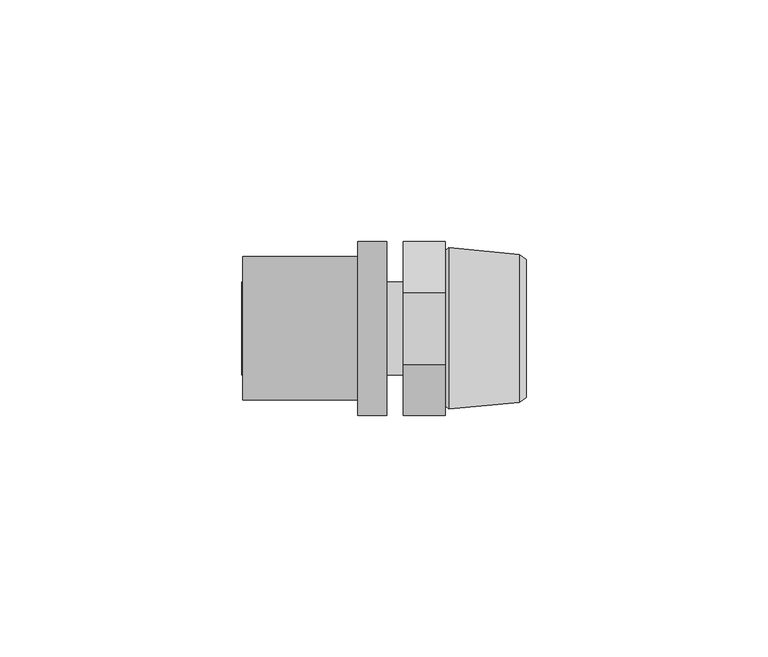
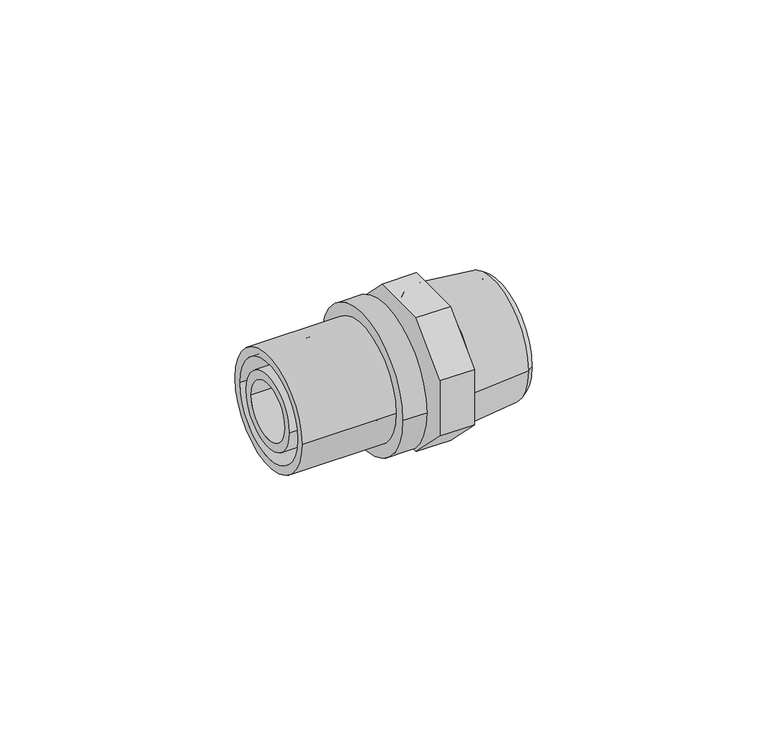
"""IFC4 building model written with IfcOpenShell, lengths in millimetres: pipe fitting geometry, FASTLOC_Adapter_RX+, with external thread : FSL A C external EX+ AT."""

import ifcopenshell
import ifcopenshell.guid

model = None  # the IFC model being written
_history = None  # IfcOwnerHistory: only IFC2X3 demands one
_inside = {}  # id of a spatial element -> (the spatial element, [elements in it])
_under = {}  # id of a project, library or spatial element -> (it, [spatial elements below it])
_declared = {}  # id of a project -> (the project, [libraries it declares])
_typed = {}  # id of a type object -> (the type object, [elements of that type])
_made_of = {}  # id of a material, layer set ... -> (it, [elements and type objects made of it])


def new_model(schema):
    """Start an empty IFC model of exactly this schema.

    Asked for "IFC4X3", IfcOpenShell would pick the latest addendum, in which some entities
    have other attributes; the version numbers below select the first issue.
    IFC2X3 requires an IfcOwnerHistory on every rooted entity: one is made here for all.
    """
    global model, _history
    if schema == "IFC4X3":
        model = ifcopenshell.file(schema_version=(4, 3, 0, 0))
    else:
        model = ifcopenshell.file(schema=schema)
    _inside.clear()
    _under.clear()
    _declared.clear()
    _typed.clear()
    _made_of.clear()
    _history = None
    if model.schema == "IFC2X3":
        org = make("IfcOrganization", Name="unknown")
        user = make(
            "IfcPersonAndOrganization",
            ThePerson=make("IfcPerson", FamilyName="unknown"),
            TheOrganization=org,
        )
        app = make(
            "IfcApplication",
            ApplicationDeveloper=org,
            Version="unknown",
            ApplicationFullName="unknown",
            ApplicationIdentifier="unknown",
        )
        _history = make(
            "IfcOwnerHistory",
            OwningUser=user,
            OwningApplication=app,
            ChangeAction="ADDED",
            CreationDate=0,
        )
    return model


def make(cls, **values):
    """One entity of the class cls with the attributes given. An attribute that is None is left unset."""
    return model.create_entity(
        cls, **{name: value for name, value in values.items() if value is not None}
    )


def rooted(cls, **values):
    """An entity with a GlobalId (a new one), such as an element, a storey or a relation."""
    return make(cls, GlobalId=ifcopenshell.guid.new(), OwnerHistory=_history, **values)


def si_unit(unit_type, name, prefix=None):
    """IfcSIUnit, for example si_unit("LENGTHUNIT", "METRE", prefix="MILLI")."""
    return make("IfcSIUnit", UnitType=unit_type, Prefix=prefix, Name=name)


def assignment(units):
    """IfcUnitAssignment: the units of a project."""
    return None if units is None else make("IfcUnitAssignment", Units=units)


def point(xyz):
    """IfcCartesianPoint."""
    return None if xyz is None else make("IfcCartesianPoint", Coordinates=xyz)


def direction(xyz):
    """IfcDirection."""
    return None if xyz is None else make("IfcDirection", DirectionRatios=xyz)


def frame(location, z_axis=None, x_axis=None):
    """IfcAxis2Placement3D, a coordinate frame: its origin and axes. An axis left out is left unset."""
    return make(
        "IfcAxis2Placement3D",
        Location=point(location),
        Axis=direction(z_axis),
        RefDirection=direction(x_axis),
    )


def origin():
    """The frame at (0, 0, 0) with its axes left unset."""
    return frame((0.0, 0.0, 0.0))


def place(relative_to, where):
    """IfcLocalPlacement: puts the frame where relative to a parent placement (None: the world)."""
    return make(
        "IfcLocalPlacement", PlacementRelTo=relative_to, RelativePlacement=where
    )


def context(
    kind, dimensions, precision=None, world=None, true_north=None, identifier=None
):
    """IfcGeometricRepresentationContext, for example the 3D "Model" context."""
    return make(
        "IfcGeometricRepresentationContext",
        ContextIdentifier=identifier,
        ContextType=kind,
        CoordinateSpaceDimension=dimensions,
        Precision=precision,
        WorldCoordinateSystem=world,
        TrueNorth=true_north,
    )


def project(units=None, contexts=None):
    """IfcProject with its units and contexts."""
    return rooted(
        "IfcProject",
        Name="project",
        RepresentationContexts=contexts,
        UnitsInContext=assignment(units),
    )


def spatial(cls, under=None, at=None, **own):
    """A site, building, storey or space (cls), placed at a placement, below another one or the project."""
    s = rooted(cls, ObjectPlacement=at, **own)
    if under is not None:
        _under.setdefault(under.id(), (under, []))[1].append(s)
    return s


def polyline(points):
    """IfcPolyline through the points."""
    return make("IfcPolyline", Points=[point(p) for p in points])


def circle_curve(where, radius):
    """IfcCircle in the frame where."""
    return make("IfcCircle", Position=where, Radius=radius)


def outline(outer, holes=None, kind="AREA"):
    """IfcArbitraryClosedProfileDef: a profile drawn as a closed curve; with holes, ...WithVoids."""
    if holes is None:
        return make("IfcArbitraryClosedProfileDef", ProfileType=kind, OuterCurve=outer)
    return make(
        "IfcArbitraryProfileDefWithVoids",
        ProfileType=kind,
        OuterCurve=outer,
        InnerCurves=holes,
    )


def extrude(swept, where, along, depth):
    """IfcExtrudedAreaSolid: the profile swept, set in the frame where, extruded along a direction by depth."""
    return make(
        "IfcExtrudedAreaSolid",
        SweptArea=swept,
        Position=where,
        ExtrudedDirection=direction(along),
        Depth=depth,
    )


def shape(context_of_items, identifier, shape_type, items):
    """IfcShapeRepresentation: the items that make up one representation, for example the "Body"."""
    return make(
        "IfcShapeRepresentation",
        ContextOfItems=context_of_items,
        RepresentationIdentifier=identifier,
        RepresentationType=shape_type,
        Items=items,
    )


def source(mapping_origin, context_of_items, identifier, shape_type, items):
    """IfcRepresentationMap: a shape defined once, which mapped items show again and again."""
    return make(
        "IfcRepresentationMap",
        MappingOrigin=mapping_origin,
        MappedRepresentation=shape(context_of_items, identifier, shape_type, items),
    )


def transform(
    local_origin,
    x_axis=None,
    y_axis=None,
    z_axis=None,
    scale=None,
    scale2=None,
    scale3=None,
    uniform=True,
):
    """IfcCartesianTransformationOperator3D, or its non-uniform kind. x_axis, y_axis, z_axis: its Axis1, 2, 3."""
    if uniform:
        return make(
            "IfcCartesianTransformationOperator3D",
            Axis1=direction(x_axis),
            Axis2=direction(y_axis),
            LocalOrigin=point(local_origin),
            Scale=scale,
            Axis3=direction(z_axis),
        )
    return make(
        "IfcCartesianTransformationOperator3DnonUniform",
        Axis1=direction(x_axis),
        Axis2=direction(y_axis),
        LocalOrigin=point(local_origin),
        Scale=scale,
        Axis3=direction(z_axis),
        Scale2=scale2,
        Scale3=scale3,
    )


def mapped(mapping_source, mapping_target):
    """IfcMappedItem: shows the shape of a source again, moved by a transform."""
    return make(
        "IfcMappedItem", MappingSource=mapping_source, MappingTarget=mapping_target
    )


def made_of(thing, what):
    """Note that an element or type object is made of a material, layer set ...; save() writes the relation."""
    if what is not None:
        _made_of.setdefault(what.id(), (what, []))[1].append(thing)
    return thing


def element(
    cls,
    number,
    at=None,
    inside=None,
    cuts=None,
    type_object=None,
    material=None,
    context=None,
    identifier="Body",
    shape_type=None,
    held_by="IfcProductDefinitionShape",
    body=None,
    shapes=None,
    **own,
):
    """One element of the class cls, such as IfcWall. Its Tag is "e" and its number.

    at: its placement. inside: the storey or other place that contains it. cuts: it is an
    opening in that element (IfcRelVoidsElement). A single representation is given by context,
    identifier, shape_type and body (its items); several are given by shapes. held_by: the class
    of the entity that holds the representations. save() writes the other relations.
    """
    e = rooted(cls, Tag="e%d" % number, ObjectPlacement=at, **own)
    if body is not None:
        shapes = [shape(context, identifier, shape_type, body)]
    if shapes is not None:
        e.Representation = make(held_by, Representations=shapes)
    if inside is not None:
        _inside.setdefault(inside.id(), (inside, []))[1].append(e)
    if cuts is not None:
        rooted(
            "IfcRelVoidsElement", RelatingBuildingElement=cuts, RelatedOpeningElement=e
        )
    if type_object is not None:
        _typed.setdefault(type_object.id(), (type_object, []))[1].append(e)
    return made_of(e, material)


def aggregate(whole, parts):
    """IfcRelAggregates: a whole, such as a stair, and the parts it consists of."""
    return rooted("IfcRelAggregates", RelatingObject=whole, RelatedObjects=parts)


def save(model, path):
    """Write the relations noted so far, then the file.

    IfcRelAggregates (storeys below a building ...), IfcRelContainedInSpatialStructure (elements
    in a storey), IfcRelDefinesByType, IfcRelAssociatesMaterial and IfcRelDeclares: one each for
    every whole, place, type object, material and project.
    """
    for whole, parts in _under.values():
        aggregate(whole, parts)
    for where, things in _inside.values():
        rooted(
            "IfcRelContainedInSpatialStructure",
            RelatedElements=things,
            RelatingStructure=where,
        )
    for kind, things in _typed.values():
        rooted("IfcRelDefinesByType", RelatedObjects=things, RelatingType=kind)
    for what, things in _made_of.values():
        rooted("IfcRelAssociatesMaterial", RelatedObjects=things, RelatingMaterial=what)
    for by, libraries in _declared.values():
        rooted("IfcRelDeclares", RelatingContext=by, RelatedDefinitions=libraries)
    model.write(path)


def plane_surface(at):
    """IfcPlane: the flat surface through the origin of the frame at, square to its z axis."""
    return make("IfcPlane", Position=at)


def cylinder_surface(at, radius):
    """IfcCylindricalSurface: all points at the distance radius from the z axis of the frame at."""
    return make("IfcCylindricalSurface", Position=at, Radius=radius)


def revolved_surface(curve, axis_point, axis_direction):
    """IfcSurfaceOfRevolution: the curve turned about the line through axis_point along axis_direction."""
    return make(
        "IfcSurfaceOfRevolution",
        SweptCurve=make("IfcArbitraryOpenProfileDef", ProfileType="CURVE", Curve=curve),
        AxisPosition=make("IfcAxis1Placement", Location=point(axis_point), Axis=direction(axis_direction)),
    )


def advanced_brep(points, edges, surfaces, faces):
    """IfcAdvancedBrep: a solid bounded by faces that lie on surfaces and meet in shared edges.

    An edge is (start, end): straight between two places in points (the first is 0);
    or (start, end, curve); or (start, end, curve, False) where it runs against its curve.
    A face is (place in surfaces, loops), or (place, loops, False) where it looks against
    its surface's normal. A loop lists edges by number (the first is 1), with a minus sign
    where the edge is run from its end to its start. The first loop is the outer one.
    """
    corners = [point(p) for p in points]
    vertices = [make("IfcVertexPoint", VertexGeometry=c) for c in corners]
    made = []
    for start, end, *more in edges:
        made.append(
            make(
                "IfcEdgeCurve",
                EdgeStart=vertices[start],
                EdgeEnd=vertices[end],
                EdgeGeometry=more[0] if more else make("IfcPolyline", Points=[corners[start], corners[end]]),
                SameSense=more[1] if len(more) > 1 else True,
            )
        )
    hull = []
    for where, loops, *sense in faces:
        bounds = []
        for j, loop in enumerate(loops):
            ring = [make("IfcOrientedEdge", EdgeElement=made[abs(k) - 1], Orientation=k > 0) for k in loop]
            bounds.append(
                make(
                    "IfcFaceOuterBound" if j == 0 else "IfcFaceBound",
                    Bound=make("IfcEdgeLoop", EdgeList=ring),
                    Orientation=True,
                )
            )
        hull.append(make("IfcAdvancedFace", Bounds=bounds, FaceSurface=surfaces[where], SameSense=sense[0] if sense else True))
    return make("IfcAdvancedBrep", Outer=make("IfcClosedShell", CfsFaces=hull))


def pipe_fitting_5e5bb3cb(model_context):
    return source(origin(), model_context, "Body", "SolidModel", [
        advanced_brep(
        [(-9.4, -18.0, 0.0), (-9.4, 18.0, 0.0), (-3.4, 18.0, 0.0), (-3.4, -18.0, 0.0), (-33.2, -14.85, 0.0), (-33.2, 14.85, 0.0), (-9.4, 14.85, 0.0), (-9.4, -14.85, 0.0), (-3.4, -12.65, 0.0), (-3.4, 12.65, 0.0), (-33.2, 12.65, 0.0), (-33.2, -12.65, 0.0)],
        [
            (0, 1, circle_curve(frame((-9.4, 0.0, 0.0), z_axis=(1.0, 0.0, 0.0), x_axis=(0.0, 1.0, 0.0)), 18.0)),
            (1, 2),
            (2, 3, circle_curve(frame((-3.4, 0.0, 0.0), z_axis=(-1.0, 0.0, 0.0), x_axis=(0.0, 1.0, 0.0)), 18.0)),
            (3, 0),
            (4, 5, circle_curve(frame((-33.2, 0.0, 0.0), z_axis=(1.0, 0.0, 0.0), x_axis=(0.0, 1.0, 0.0)), 14.85)),
            (5, 6),
            (6, 7, circle_curve(frame((-9.4, 0.0, 0.0), z_axis=(-1.0, 0.0, 0.0), x_axis=(0.0, 1.0, 0.0)), 14.85)),
            (7, 4),
            (8, 9, circle_curve(frame((-3.4, 0.0, 0.0), z_axis=(1.0, 0.0, 0.0), x_axis=(0.0, 1.0, 0.0)), 12.65)),
            (9, 10),
            (10, 11, circle_curve(frame((-33.2, 0.0, 0.0), z_axis=(-1.0, 0.0, 0.0), x_axis=(0.0, 1.0, 0.0)), 12.65)),
            (11, 8),
            (1, 0, circle_curve(frame((-9.4, 0.0, 0.0), z_axis=(1.0, 0.0, 0.0), x_axis=(0.0, -1.0, 0.0)), 18.0)),
            (3, 2, circle_curve(frame((-3.4, 0.0, 0.0), z_axis=(-1.0, 0.0, 0.0), x_axis=(0.0, -1.0, 0.0)), 18.0)),
            (6, 7, circle_curve(frame((-9.4, 0.0, 0.0), z_axis=(1.0, 0.0, 0.0), x_axis=(0.0, -1.0, 0.0)), 14.85)),
            (5, 4, circle_curve(frame((-33.2, 0.0, 0.0), z_axis=(1.0, 0.0, 0.0), x_axis=(0.0, -1.0, 0.0)), 14.85)),
            (10, 11, circle_curve(frame((-33.2, 0.0, 0.0), z_axis=(1.0, 0.0, 0.0), x_axis=(0.0, -1.0, 0.0)), 12.65)),
            (9, 8, circle_curve(frame((-3.4, 0.0, 0.0), z_axis=(1.0, 0.0, 0.0), x_axis=(0.0, -1.0, 0.0)), 12.65)),
        ],
        [
            cylinder_surface(frame((-3.4, 0.0, 0.0), z_axis=(-1.0, 0.0, 0.0), x_axis=(0.0, 1.0, 0.0)), 18.0),
            cylinder_surface(frame((-3.4, 0.0, 0.0), z_axis=(-1.0, 0.0, 0.0), x_axis=(0.0, 1.0, 0.0)), 14.85),
            revolved_surface(polyline([(-33.2, 12.65, 0.0), (-3.4, 12.65, 0.0)]), (-3.4, 0.0, 0.0), (-1.0, 0.0, 0.0)),
            cylinder_surface(frame((-3.4, 0.0, 0.0), z_axis=(-1.0, 0.0, 0.0), x_axis=(0.0, -1.0, 0.0)), 18.0),
            plane_surface(frame((-9.4, 0.0, 0.0), z_axis=(-1.0, 0.0, 0.0), x_axis=(0.0, -1.0, 0.0))),
            cylinder_surface(frame((-3.4, 0.0, 0.0), z_axis=(-1.0, 0.0, 0.0), x_axis=(0.0, -1.0, 0.0)), 14.85),
            plane_surface(frame((-33.2, 0.0, 0.0), z_axis=(-1.0, 0.0, 0.0), x_axis=(0.0, -1.0, 0.0))),
            revolved_surface(polyline([(-33.2, -12.65, 0.0), (-3.4, -12.65, 0.0)]), (-3.4, 0.0, 0.0), (-1.0, 0.0, 0.0)),
            plane_surface(frame((-3.4, 0.0, 0.0), z_axis=(1.0, 0.0, 0.0), x_axis=(0.0, -1.0, 0.0))),
        ],
        [
            (0, [[1, 2, 3, 4]]),
            (1, [[5, 6, 7, 8]]),
            (2, [[9, 10, 11, 12]]),
            (3, [[13, -4, 14, -2]]),
            (4, [[-13, -1], [15, -7]]),
            (5, [[16, -8, -15, -6]]),
            (6, [[-16, -5], [17, -11]]),
            (7, [[18, -12, -17, -10]]),
            (8, [[-14, -3], [-18, -9]]),
        ],
    ),
        advanced_brep(
        [(9.8032803, 12.75, 0.0), (9.8032803, -12.75, 0.0), (25.5, -12.75, 0.0), (25.5, 12.75, 0.0), (8.7, 11.6467197, 0.0), (8.7, -11.6467197, 0.0), (9.4406902, 16.7, 0.0), (9.4406902, -16.7, 0.0), (8.7, -16.1, 0.0), (8.7, 16.1, 0.0), (24.0000007, 15.3, 0.0), (24.0000007, -15.3, 0.0), (25.5, 14.3, 0.0), (25.5, -14.3, 0.0)],
        [
            (0, 1, circle_curve(frame((9.8032803, 0.0, 0.0), z_axis=(-1.0, 0.0, 0.0), x_axis=(0.0, -1.0, 0.0)), 12.75)),
            (1, 2),
            (2, 3, circle_curve(frame((25.5, 0.0, 0.0), z_axis=(1.0, 0.0, 0.0), x_axis=(0.0, -1.0, 0.0)), 12.75)),
            (3, 0),
            (4, 5, circle_curve(frame((8.7, 0.0, 0.0), z_axis=(-1.0, 0.0, 0.0), x_axis=(0.0, -1.0, 0.0)), 11.6467197)),
            (5, 1),
            (0, 4),
            (6, 7, circle_curve(frame((9.4406902, 0.0, 0.0), z_axis=(-1.0, 0.0, 0.0), x_axis=(0.0, -1.0, 0.0)), 16.7)),
            (7, 8),
            (8, 9, circle_curve(frame((8.7, 0.0, 0.0), z_axis=(1.0, 0.0, 0.0), x_axis=(0.0, -1.0, 0.0)), 16.1)),
            (9, 6),
            (10, 11, circle_curve(frame((24.0000007, 0.0, 0.0), z_axis=(-1.0, 0.0, 0.0), x_axis=(0.0, -1.0, 0.0)), 15.3)),
            (11, 7),
            (6, 10),
            (12, 13, circle_curve(frame((25.5, 0.0, 0.0), z_axis=(-1.0, 0.0, 0.0), x_axis=(0.0, -1.0, 0.0)), 14.3)),
            (13, 11),
            (10, 12),
            (1, 0, circle_curve(frame((9.8032803, 0.0, 0.0), z_axis=(-1.0, 0.0, 0.0), x_axis=(0.0, 1.0, 0.0)), 12.75)),
            (3, 2, circle_curve(frame((25.5, 0.0, 0.0), z_axis=(1.0, 0.0, 0.0), x_axis=(0.0, 1.0, 0.0)), 12.75)),
            (5, 4, circle_curve(frame((8.7, 0.0, 0.0), z_axis=(-1.0, 0.0, 0.0), x_axis=(0.0, 1.0, 0.0)), 11.6467197)),
            (8, 9, circle_curve(frame((8.7, 0.0, 0.0), z_axis=(-1.0, 0.0, 0.0), x_axis=(0.0, 1.0, 0.0)), 16.1)),
            (7, 6, circle_curve(frame((9.4406902, 0.0, 0.0), z_axis=(-1.0, 0.0, 0.0), x_axis=(0.0, 1.0, 0.0)), 16.7)),
            (11, 10, circle_curve(frame((24.0000007, 0.0, 0.0), z_axis=(-1.0, 0.0, 0.0), x_axis=(0.0, 1.0, 0.0)), 15.3)),
            (13, 12, circle_curve(frame((25.5, 0.0, 0.0), z_axis=(-1.0, 0.0, 0.0), x_axis=(0.0, 1.0, 0.0)), 14.3)),
        ],
        [
            revolved_surface(polyline([(25.5, -12.75, 0.0), (9.8032803, -12.75, 0.0)]), (0.0, 0.0, 0.0), (1.0, 0.0, 0.0)),
            revolved_surface(polyline([(9.8032803, -12.75, 0.0), (8.7, -11.6467197, 0.0)]), (0.0, 0.0, 0.0), (1.0, 0.0, 0.0)),
            revolved_surface(polyline([(8.7, -16.1, 0.0), (9.4406902, -16.7, 0.0)]), (0.0, 0.0, 0.0), (1.0, 0.0, 0.0)),
            revolved_surface(polyline([(9.4406902, -16.7, 0.0), (24.0000007, -15.3, 0.0)]), (0.0, 0.0, 0.0), (1.0, 0.0, 0.0)),
            revolved_surface(polyline([(24.0000007, -15.3, 0.0), (25.5, -14.3, 0.0)]), (0.0, 0.0, 0.0), (1.0, 0.0, 0.0)),
            revolved_surface(polyline([(25.5, 12.75, 0.0), (9.8032803, 12.75, 0.0)]), (0.0, 0.0, 0.0), (1.0, 0.0, 0.0)),
            revolved_surface(polyline([(9.8032803, 12.75, 0.0), (8.7, 11.6467197, 0.0)]), (0.0, 0.0, 0.0), (1.0, 0.0, 0.0)),
            plane_surface(frame((8.7, 0.0, 0.0), z_axis=(-1.0, 0.0, 0.0), x_axis=(0.0, 1.0, 0.0))),
            revolved_surface(polyline([(8.7, 16.1, 0.0), (9.4406902, 16.7, 0.0)]), (0.0, 0.0, 0.0), (1.0, 0.0, 0.0)),
            revolved_surface(polyline([(9.4406902, 16.7, 0.0), (24.0000007, 15.3, 0.0)]), (0.0, 0.0, 0.0), (1.0, 0.0, 0.0)),
            revolved_surface(polyline([(24.0000007, 15.3, 0.0), (25.5, 14.3, 0.0)]), (0.0, 0.0, 0.0), (1.0, 0.0, 0.0)),
            plane_surface(frame((25.5, 0.0, 0.0), z_axis=(1.0, 0.0, 0.0), x_axis=(0.0, 1.0, 0.0))),
        ],
        [
            (0, [[1, 2, 3, 4]]),
            (1, [[5, 6, -1, 7]]),
            (2, [[8, 9, 10, 11]]),
            (3, [[12, 13, -8, 14]]),
            (4, [[15, 16, -12, 17]]),
            (5, [[18, -4, 19, -2]]),
            (6, [[20, -7, -18, -6]]),
            (7, [[21, -10], [-20, -5]]),
            (8, [[22, -11, -21, -9]]),
            (9, [[23, -14, -22, -13]]),
            (10, [[24, -17, -23, -16]]),
            (11, [[-24, -15], [-19, -3]]),
        ],
    ),
        extrude(outline(polyline([(-18.0, 7.4558441), (-7.4558441, 18.0), (7.4558441, 18.0), (18.0, 7.4558441), (18.0, -7.4558441), (7.4558441, -18.0), (-7.4558441, -18.0), (-18.0, -7.4558441), (-18.0, 7.4558441)])), frame((0.0, 0.0, 0.0), z_axis=(1.0, 0.0, 0.0), x_axis=(0.0, 1.0, 0.0)), (0.0, 0.0, 1.0), 8.7),
        advanced_brep(
        [(-33.4, 7.35, 0.0), (-33.4, -7.35, 0.0), (0.0, -7.35, 0.0), (0.0, 7.35, 0.0), (0.0, 9.6, 0.0), (0.0, -9.6, 0.0), (-6.6, -9.6, 0.0), (-6.6, 9.6, 0.0), (-6.6, 11.1, 0.0), (-6.6, -11.1, 0.0), (-9.4, -11.1, 0.0), (-9.4, 11.1, 0.0), (-9.4, 9.6, 0.0), (-9.4, -9.6, 0.0), (-33.4, -9.6, 0.0), (-33.4, 9.6, 0.0)],
        [
            (0, 1, circle_curve(frame((-33.4, 0.0, 0.0), z_axis=(-1.0, 0.0, 0.0), x_axis=(0.0, -1.0, 0.0)), 7.35)),
            (1, 2),
            (2, 3, circle_curve(frame((0.0, 0.0, 0.0), z_axis=(1.0, 0.0, 0.0), x_axis=(0.0, -1.0, 0.0)), 7.35)),
            (3, 0),
            (4, 5, circle_curve(frame((0.0, 0.0, 0.0), z_axis=(-1.0, 0.0, 0.0), x_axis=(0.0, -1.0, 0.0)), 9.6)),
            (5, 6),
            (6, 7, circle_curve(frame((-6.6, 0.0, 0.0), z_axis=(1.0, 0.0, 0.0), x_axis=(0.0, -1.0, 0.0)), 9.6)),
            (7, 4),
            (8, 9, circle_curve(frame((-6.6, 0.0, 0.0), z_axis=(-1.0, 0.0, 0.0), x_axis=(0.0, -1.0, 0.0)), 11.1)),
            (9, 10),
            (10, 11, circle_curve(frame((-9.4, 0.0, 0.0), z_axis=(1.0, 0.0, 0.0), x_axis=(0.0, -1.0, 0.0)), 11.1)),
            (11, 8),
            (12, 13, circle_curve(frame((-9.4, 0.0, 0.0), z_axis=(-1.0, 0.0, 0.0), x_axis=(0.0, -1.0, 0.0)), 9.6)),
            (13, 14),
            (14, 15, circle_curve(frame((-33.4, 0.0, 0.0), z_axis=(1.0, 0.0, 0.0), x_axis=(0.0, -1.0, 0.0)), 9.6)),
            (15, 12),
            (1, 0, circle_curve(frame((-33.4, 0.0, 0.0), z_axis=(-1.0, 0.0, 0.0), x_axis=(0.0, 1.0, 0.0)), 7.35)),
            (3, 2, circle_curve(frame((0.0, 0.0, 0.0), z_axis=(1.0, 0.0, 0.0), x_axis=(0.0, 1.0, 0.0)), 7.35)),
            (4, 5, circle_curve(frame((0.0, 0.0, 0.0), z_axis=(1.0, 0.0, 0.0), x_axis=(0.0, 1.0, 0.0)), 9.6)),
            (7, 6, circle_curve(frame((-6.6, 0.0, 0.0), z_axis=(1.0, 0.0, 0.0), x_axis=(0.0, 1.0, 0.0)), 9.6)),
            (8, 9, circle_curve(frame((-6.6, 0.0, 0.0), z_axis=(1.0, 0.0, 0.0), x_axis=(0.0, 1.0, 0.0)), 11.1)),
            (11, 10, circle_curve(frame((-9.4, 0.0, 0.0), z_axis=(1.0, 0.0, 0.0), x_axis=(0.0, 1.0, 0.0)), 11.1)),
            (12, 13, circle_curve(frame((-9.4, 0.0, 0.0), z_axis=(1.0, 0.0, 0.0), x_axis=(0.0, 1.0, 0.0)), 9.6)),
            (15, 14, circle_curve(frame((-33.4, 0.0, 0.0), z_axis=(1.0, 0.0, 0.0), x_axis=(0.0, 1.0, 0.0)), 9.6)),
        ],
        [
            revolved_surface(polyline([(0.0, -7.35, 0.0), (-33.4, -7.35, 0.0)]), (0.0, 0.0, 0.0), (1.0, 0.0, 0.0)),
            cylinder_surface(frame((0.0, 0.0, 0.0), z_axis=(1.0, 0.0, 0.0), x_axis=(0.0, -1.0, 0.0)), 9.6),
            cylinder_surface(frame((0.0, 0.0, 0.0), z_axis=(1.0, 0.0, 0.0), x_axis=(0.0, -1.0, 0.0)), 11.1),
            revolved_surface(polyline([(0.0, 7.35, 0.0), (-33.4, 7.35, 0.0)]), (0.0, 0.0, 0.0), (1.0, 0.0, 0.0)),
            plane_surface(frame((0.0, 0.0, 0.0), z_axis=(1.0, 0.0, 0.0), x_axis=(0.0, 1.0, 0.0))),
            cylinder_surface(frame((0.0, 0.0, 0.0), z_axis=(1.0, 0.0, 0.0), x_axis=(0.0, 1.0, 0.0)), 9.6),
            plane_surface(frame((-6.6, 0.0, 0.0), z_axis=(1.0, 0.0, 0.0), x_axis=(0.0, 1.0, 0.0))),
            cylinder_surface(frame((0.0, 0.0, 0.0), z_axis=(1.0, 0.0, 0.0), x_axis=(0.0, 1.0, 0.0)), 11.1),
            plane_surface(frame((-9.4, 0.0, 0.0), z_axis=(-1.0, 0.0, 0.0), x_axis=(0.0, 1.0, 0.0))),
            plane_surface(frame((-33.4, 0.0, 0.0), z_axis=(-1.0, 0.0, 0.0), x_axis=(0.0, 1.0, 0.0))),
        ],
        [
            (0, [[1, 2, 3, 4]]),
            (1, [[5, 6, 7, 8]]),
            (2, [[9, 10, 11, 12]]),
            (1, [[13, 14, 15, 16]]),
            (3, [[17, -4, 18, -2]]),
            (4, [[19, -5], [-18, -3]]),
            (5, [[-19, -8, 20, -6]]),
            (6, [[21, -9], [-20, -7]]),
            (7, [[-21, -12, 22, -10]]),
            (8, [[-22, -11], [23, -13]]),
            (5, [[-23, -16, 24, -14]]),
            (9, [[-24, -15], [-17, -1]]),
        ],
    ),
    ])


if __name__ == "__main__":
    model = new_model("IFC4")
    model_context = context("Model", 3, world=origin())
    ifc_project = project(units=[si_unit("LENGTHUNIT", "METRE", prefix="MILLI")], contexts=[model_context])
    site = spatial("IfcSite", under=ifc_project)
    building = spatial("IfcBuilding", under=site)
    placement = place(None, origin())
    pipe_fitting_shape = pipe_fitting_5e5bb3cb(model_context)
    element("IfcPipeFitting", 1, ObjectType="FASTLOC_Adapter_RX+, with external thread : FSL A C external EX+ AT", at=placement, inside=building, context=model_context, shape_type="MappedRepresentation", body=[
        mapped(pipe_fitting_shape, transform((0.0, 0.0, 0.0), x_axis=(1.0, 0.0, 0.0), y_axis=(0.0, 1.0, 0.0), z_axis=(0.0, 0.0, 1.0))),
    ])
    save(model, "model.ifc")
